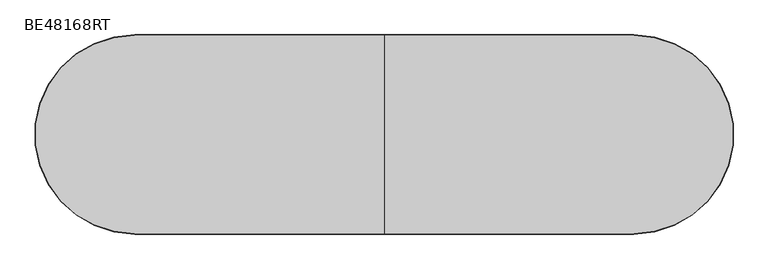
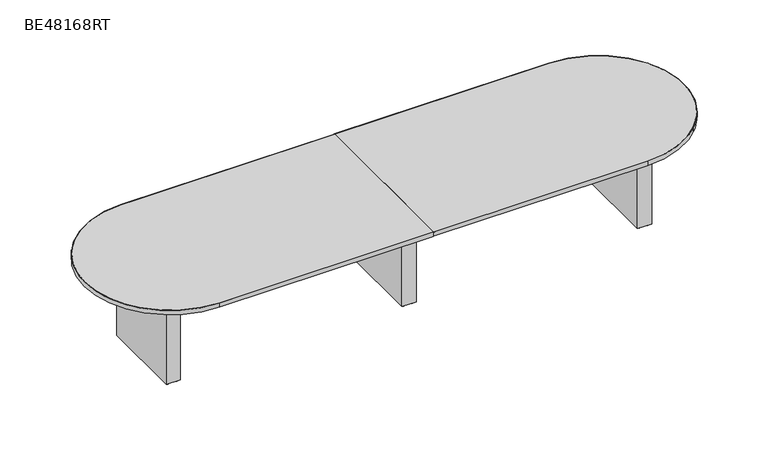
"""IFC4 building model written with IfcOpenShell, lengths in millimetres: furniture geometry, ERG-Beta-Conference_Table-Racetrack : BE48168RT."""

from ifc_helpers import new_model, si_unit, point, frame, frame_2d, origin, origin_with_axes, place, context, project, spatial, polyline, circle_curve, trimmed, segment, composite_curve, outline, extrude, source, transform, mapped, element, save


def be48168rt_bf54c20b(model_context):
    return source(origin(), model_context, "Body", "SweptSolid", [
        extrude(outline(composite_curve([segment(trimmed(circle_curve(frame_2d((511.175, 339.476527)), 9.525), [point((501.65, 339.476527))], [point((520.7, 339.476527))], False, "CARTESIAN"), True, "CONTINUOUS"), segment(trimmed(circle_curve(frame_2d((511.175, 339.476527)), 9.525), [point((520.7, 339.476527))], [point((501.65, 339.476527))], False, "CARTESIAN"), True, "CONTINUOUS")], self_intersect=False)), origin_with_axes(), (0.0, 0.0, 1.0), 9.525),
        extrude(outline(composite_curve([segment(trimmed(circle_curve(frame_2d((574.675, 339.476527)), 9.525), [point((565.15, 339.476527))], [point((584.2, 339.476527))], False, "CARTESIAN"), True, "CONTINUOUS"), segment(trimmed(circle_curve(frame_2d((574.675, 339.476527)), 9.525), [point((584.2, 339.476527))], [point((565.15, 339.476527))], False, "CARTESIAN"), True, "CONTINUOUS")], self_intersect=False)), origin_with_axes(), (0.0, 0.0, 1.0), 9.525),
        extrude(outline(composite_curve([segment(trimmed(circle_curve(frame_2d((511.175, -232.023473)), 9.525), [point((501.65, -232.023473))], [point((520.7, -232.023473))], False, "CARTESIAN"), True, "CONTINUOUS"), segment(trimmed(circle_curve(frame_2d((511.175, -232.023473)), 9.525), [point((520.7, -232.023473))], [point((501.65, -232.023473))], False, "CARTESIAN"), True, "CONTINUOUS")], self_intersect=False)), origin_with_axes(), (0.0, 0.0, 1.0), 9.525),
        extrude(outline(composite_curve([segment(trimmed(circle_curve(frame_2d((574.675, -232.023473)), 9.525), [point((565.15, -232.023473))], [point((584.2, -232.023473))], False, "CARTESIAN"), True, "CONTINUOUS"), segment(trimmed(circle_curve(frame_2d((574.675, -232.023473)), 9.525), [point((584.2, -232.023473))], [point((565.15, -232.023473))], False, "CARTESIAN"), True, "CONTINUOUS")], self_intersect=False)), origin_with_axes(), (0.0, 0.0, 1.0), 9.525),
        extrude(outline(polyline([(593.725, 358.526527), (593.725, -251.073473), (492.125, -251.073473), (492.125, 358.526527), (593.725, 358.526527)])), frame((0.0, 0.0, 9.525), z_axis=(0.0, 0.0, 1.0), x_axis=(1.0, 0.0, 0.0)), (0.0, 0.0, 1.0), 695.3249758),
        extrude(outline(composite_curve([segment(trimmed(circle_curve(frame_2d((2187.575, 339.476527)), 9.525), [point((2178.05, 339.476527))], [point((2197.1, 339.476527))], False, "CARTESIAN"), True, "CONTINUOUS"), segment(trimmed(circle_curve(frame_2d((2187.575, 339.476527)), 9.525), [point((2197.1, 339.476527))], [point((2178.05, 339.476527))], False, "CARTESIAN"), True, "CONTINUOUS")], self_intersect=False)), origin_with_axes(), (0.0, 0.0, 1.0), 9.525),
        extrude(outline(composite_curve([segment(trimmed(circle_curve(frame_2d((2251.075, 339.476527)), 9.525), [point((2241.55, 339.476527))], [point((2260.6, 339.476527))], False, "CARTESIAN"), True, "CONTINUOUS"), segment(trimmed(circle_curve(frame_2d((2251.075, 339.476527)), 9.525), [point((2260.6, 339.476527))], [point((2241.55, 339.476527))], False, "CARTESIAN"), True, "CONTINUOUS")], self_intersect=False)), origin_with_axes(), (0.0, 0.0, 1.0), 9.525),
        extrude(outline(composite_curve([segment(trimmed(circle_curve(frame_2d((2187.575, -232.023473)), 9.525), [point((2178.05, -232.023473))], [point((2197.1, -232.023473))], False, "CARTESIAN"), True, "CONTINUOUS"), segment(trimmed(circle_curve(frame_2d((2187.575, -232.023473)), 9.525), [point((2197.1, -232.023473))], [point((2178.05, -232.023473))], False, "CARTESIAN"), True, "CONTINUOUS")], self_intersect=False)), origin_with_axes(), (0.0, 0.0, 1.0), 9.525),
        extrude(outline(composite_curve([segment(trimmed(circle_curve(frame_2d((2251.075, -232.023473)), 9.525), [point((2241.55, -232.023473))], [point((2260.6, -232.023473))], False, "CARTESIAN"), True, "CONTINUOUS"), segment(trimmed(circle_curve(frame_2d((2251.075, -232.023473)), 9.525), [point((2260.6, -232.023473))], [point((2241.55, -232.023473))], False, "CARTESIAN"), True, "CONTINUOUS")], self_intersect=False)), origin_with_axes(), (0.0, 0.0, 1.0), 9.525),
        extrude(outline(polyline([(2270.125, 358.526527), (2270.125, -251.073473), (2168.525, -251.073473), (2168.525, 358.526527), (2270.125, 358.526527)])), frame((0.0, 0.0, 9.525), z_axis=(0.0, 0.0, 1.0), x_axis=(1.0, 0.0, 0.0)), (0.0, 0.0, 1.0), 695.3249758),
        extrude(outline(composite_curve([segment(trimmed(circle_curve(frame_2d((-1165.225, 339.476527)), 9.525), [point((-1174.75, 339.476527))], [point((-1155.7, 339.476527))], False, "CARTESIAN"), True, "CONTINUOUS"), segment(trimmed(circle_curve(frame_2d((-1165.225, 339.476527)), 9.525), [point((-1155.7, 339.476527))], [point((-1174.75, 339.476527))], False, "CARTESIAN"), True, "CONTINUOUS")], self_intersect=False)), origin_with_axes(), (0.0, 0.0, 1.0), 9.525),
        extrude(outline(composite_curve([segment(trimmed(circle_curve(frame_2d((-1101.725, 339.476527)), 9.525), [point((-1111.25, 339.476527))], [point((-1092.2, 339.476527))], False, "CARTESIAN"), True, "CONTINUOUS"), segment(trimmed(circle_curve(frame_2d((-1101.725, 339.476527)), 9.525), [point((-1092.2, 339.476527))], [point((-1111.25, 339.476527))], False, "CARTESIAN"), True, "CONTINUOUS")], self_intersect=False)), origin_with_axes(), (0.0, 0.0, 1.0), 9.525),
        extrude(outline(composite_curve([segment(trimmed(circle_curve(frame_2d((-1165.225, -232.023473)), 9.525), [point((-1174.75, -232.023473))], [point((-1155.7, -232.023473))], False, "CARTESIAN"), True, "CONTINUOUS"), segment(trimmed(circle_curve(frame_2d((-1165.225, -232.023473)), 9.525), [point((-1155.7, -232.023473))], [point((-1174.75, -232.023473))], False, "CARTESIAN"), True, "CONTINUOUS")], self_intersect=False)), origin_with_axes(), (0.0, 0.0, 1.0), 9.525),
        extrude(outline(composite_curve([segment(trimmed(circle_curve(frame_2d((-1101.725, -232.023473)), 9.525), [point((-1111.25, -232.023473))], [point((-1092.2, -232.023473))], False, "CARTESIAN"), True, "CONTINUOUS"), segment(trimmed(circle_curve(frame_2d((-1101.725, -232.023473)), 9.525), [point((-1092.2, -232.023473))], [point((-1111.25, -232.023473))], False, "CARTESIAN"), True, "CONTINUOUS")], self_intersect=False)), origin_with_axes(), (0.0, 0.0, 1.0), 9.525),
        extrude(outline(polyline([(-1082.675, 358.526527), (-1082.675, -251.073473), (-1184.275, -251.073473), (-1184.275, 358.526527), (-1082.675, 358.526527)])), frame((0.0, 0.0, 9.525), z_axis=(0.0, 0.0, 1.0), x_axis=(1.0, 0.0, 0.0)), (0.0, 0.0, 1.0), 695.3249758),
        extrude(outline(composite_curve([segment(trimmed(circle_curve(frame_2d((2066.925, 53.726527)), 606.425), [point((2066.925, 660.151527))], [point((2066.925, -552.698473))], False, "CARTESIAN"), True, "CONTINUOUS"), segment(polyline([(2066.925, -552.698473), (544.5125, -552.698473), (544.5125, 660.151527), (2066.925, 660.151527)]), True, "CONTINUOUS")], self_intersect=False)), frame((0.0, 0.0, 704.85), z_axis=(0.0, 0.0, 1.0), x_axis=(1.0, 0.0, 0.0)), (0.0, 0.0, 1.0), 31.75),
        extrude(outline(composite_curve([segment(trimmed(circle_curve(frame_2d((-981.075, 53.726527)), 606.425), [point((-981.075, -552.698473))], [point((-981.075, 660.151527))], False, "CARTESIAN"), True, "CONTINUOUS"), segment(polyline([(-981.075, 660.151527), (541.3375, 660.151527), (541.3375, -552.698473), (-981.075, -552.698473)]), True, "CONTINUOUS")], self_intersect=False)), frame((0.0, 0.0, 704.85), z_axis=(0.0, 0.0, 1.0), x_axis=(1.0, 0.0, 0.0)), (0.0, 0.0, 1.0), 31.75),
        extrude(outline(composite_curve([segment(trimmed(circle_curve(frame_2d((2066.925, 53.726527)), 606.425), [point((2066.925, -552.698473))], [point((2066.925, 660.151527))], True, "CARTESIAN"), True, "CONTINUOUS"), segment(polyline([(2066.925, 660.151527), (544.5125, 660.151527), (544.5125, 663.326527), (2066.925, 663.326527)]), True, "CONTINUOUS"), segment(trimmed(circle_curve(frame_2d((2066.925, 53.726527)), 609.6), [point((2066.925, 663.326527))], [point((2066.925, -555.873473))], False, "CARTESIAN"), True, "CONTINUOUS"), segment(polyline([(2066.925, -555.873473), (544.5125, -555.873473), (544.5125, -552.698473), (2066.925, -552.698473)]), True, "CONTINUOUS")], self_intersect=False)), frame((0.0, 0.0, 704.85), z_axis=(0.0, 0.0, 1.0), x_axis=(1.0, 0.0, 0.0)), (0.0, 0.0, 1.0), 31.75),
        extrude(outline(composite_curve([segment(trimmed(circle_curve(frame_2d((-981.075, 53.726527)), 609.6), [point((-981.075, -555.873473))], [point((-981.075, 663.326527))], False, "CARTESIAN"), True, "CONTINUOUS"), segment(polyline([(-981.075, 663.326527), (541.3375, 663.326527), (541.3375, 660.151527), (-981.075, 660.151527)]), True, "CONTINUOUS"), segment(trimmed(circle_curve(frame_2d((-981.075, 53.726527)), 606.425), [point((-981.075, 660.151527))], [point((-981.075, -552.698473))], True, "CARTESIAN"), True, "CONTINUOUS"), segment(polyline([(-981.075, -552.698473), (541.3375, -552.698473), (541.3375, -555.873473), (-981.075, -555.873473)]), True, "CONTINUOUS")], self_intersect=False)), frame((0.0, 0.0, 704.85), z_axis=(0.0, 0.0, 1.0), x_axis=(1.0, 0.0, 0.0)), (0.0, 0.0, 1.0), 31.75),
    ])


if __name__ == "__main__":
    model = new_model("IFC4")
    model_context = context("Model", 3, world=origin())
    ifc_project = project(units=[si_unit("LENGTHUNIT", "METRE", prefix="MILLI")], contexts=[model_context])
    site = spatial("IfcSite", under=ifc_project)
    building = spatial("IfcBuilding", under=site)
    placement = place(None, origin())
    be48168rt_shape = be48168rt_bf54c20b(model_context)
    element("IfcFurniture", 1, ObjectType="ERG-Beta-Conference_Table-Racetrack : BE48168RT", at=placement, inside=building, context=model_context, shape_type="MappedRepresentation", body=[
        mapped(be48168rt_shape, transform((0.0, 0.0, 0.0), x_axis=(1.0, 0.0, 0.0), y_axis=(0.0, 1.0, 0.0), z_axis=(0.0, 0.0, 1.0))),
    ])
    save(model, "model.ifc")
